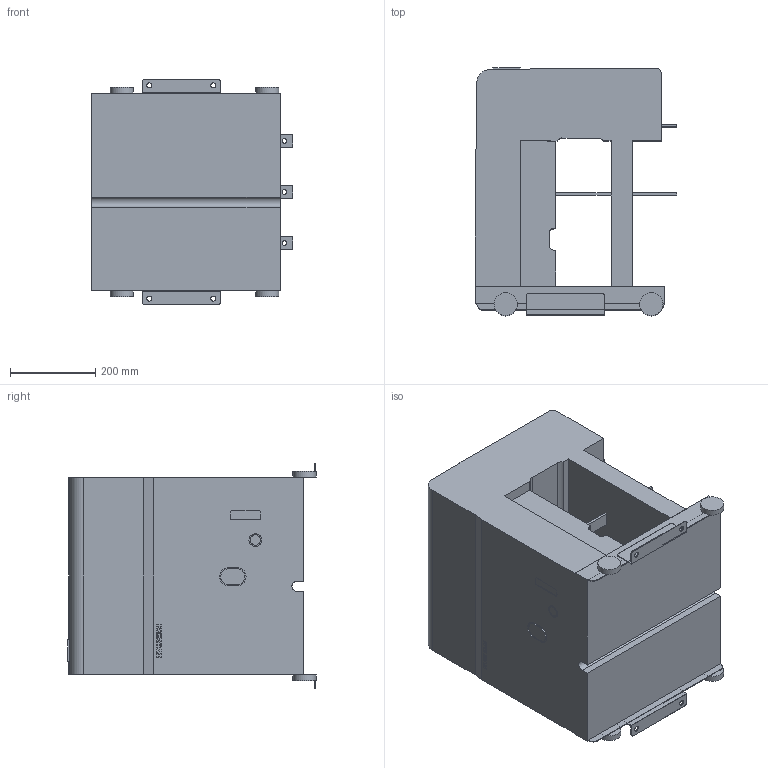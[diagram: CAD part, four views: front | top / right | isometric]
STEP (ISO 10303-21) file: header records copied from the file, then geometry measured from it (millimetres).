
FILE_DESCRIPTION(('STEP AP214'), '1');
FILE_NAME('Ñòàöèîíàðíîå èñïîëíåíèå 3,6_7,2êÂ (À2)', '', ('UNSPECIFIED'), ('UNSPECIFIED'), 'ASCON STEP Converter 1.3', 'ASCON Math Kernel', '');
FILE_SCHEMA(('AUTOMOTIVE_DESIGN { 1 0 10303 214 3 1 1}'));
Length unit declared in the file: millimetre
Bounding box: 472.6 x 581.83 x 530 mm (x, y, z)
Volume: 77230061.8 mm3; surface area: 1914622.3 mm2
Topology: 1 solids, 1 shells, 268 faces, 718 edges, 472 vertices
Faces by surface type: plane 192, cylinder 50, extrusion 26
Full cylindrical faces by diameter (mm): 4 x3, 6 x6, 11 x6, 12 x4, 24 x1, 30 x1, 54 x4
Entity records: 10487 total; most frequent: CARTESIAN_POINT 1594, ORIENTED_EDGE 1386, DIRECTION 1263, EDGE_CURVE 693, VECTOR 557, LINE 531, VERTEX_POINT 476, EDGE_LOOP 359
